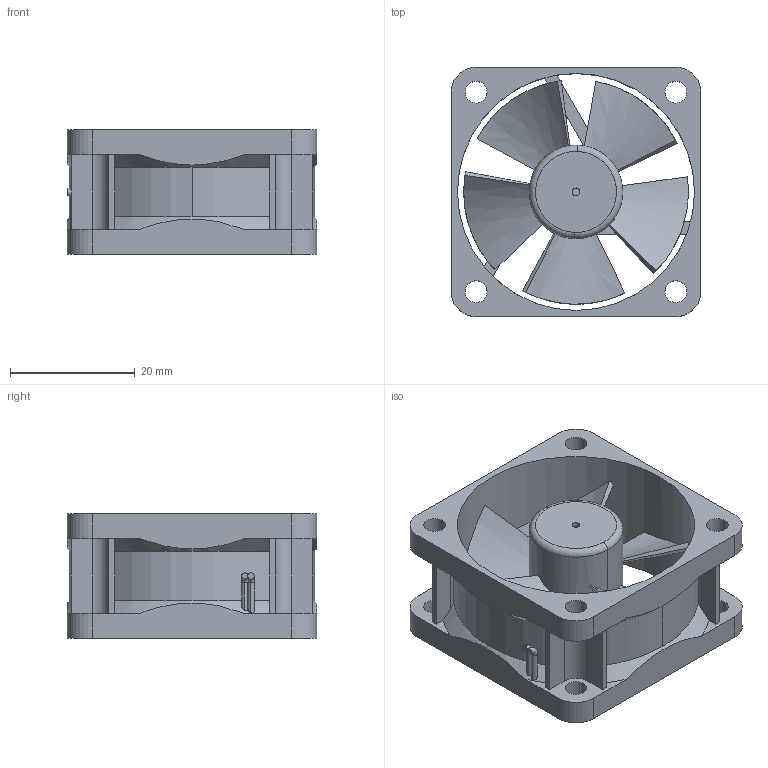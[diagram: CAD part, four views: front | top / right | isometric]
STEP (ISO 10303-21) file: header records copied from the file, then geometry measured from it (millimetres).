
FILE_DESCRIPTION(('FreeCAD Model'),'2;1');
FILE_NAME('/home/mjoh/projects/stm32/projects/SolderingStation/mech/chassis_fan_40x40x20mm.step','2020-05-19T11:07:56',(''),(''), 'Open CASCADE STEP processor 7.3','FreeCAD','Unknown');
FILE_SCHEMA(('AUTOMOTIVE_DESIGN { 1 0 10303 214 1 1 1 1 }'));
Length unit declared in the file: millimetre
Products named in the file (3): chassis_fan-40x40x20mm; House_K131247031_Stig-Wahlstrom_K131247031_Stig-Wahlstrom; Fan_K131247031_Stig-Wahlstrom_K131247031_Stig-Wahlstrom
Assembly tree (2 placements, depth 2):
  chassis_fan-40x40x20mm
    House_K131247031_Stig-Wahlstrom_K131247031_Stig-Wahlstrom
    Fan_K131247031_Stig-Wahlstrom_K131247031_Stig-Wahlstrom
Bounding box: 40 x 40 x 20 mm (x, y, z)
Volume: 9274.1 mm3; surface area: 10990.5 mm2
Topology: 2 solids, 2 shells, 159 faces, 441 edges, 290 vertices
Faces by surface type: cylinder 65, plane 63, torus 11, cone 10, bspline 10
Entity records: 5964 total; most frequent: CARTESIAN_POINT 1664, ORIENTED_EDGE 882, DIRECTION 788, EDGE_CURVE 441, AXIS2_PLACEMENT_3D 290, VERTEX_POINT 290, LINE 208, VECTOR 208
